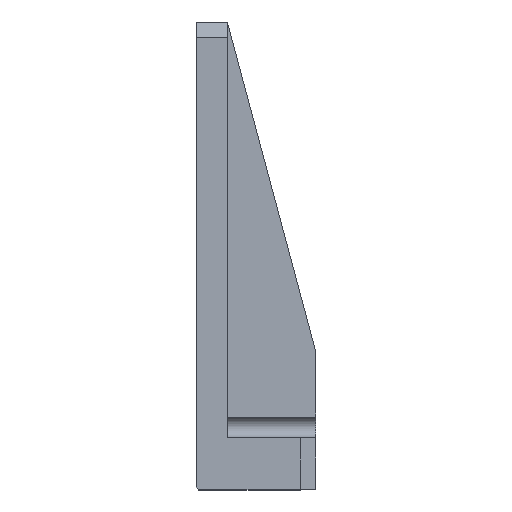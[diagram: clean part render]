
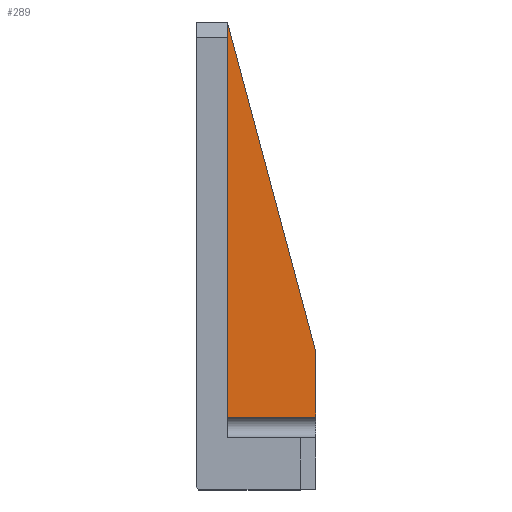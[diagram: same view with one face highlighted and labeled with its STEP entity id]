
A CAD part, top view. The second image highlights one B-rep face of the part: STEP entity #289.
In plain terms, the highlighted planar face has unit normal (0, 0, 1).
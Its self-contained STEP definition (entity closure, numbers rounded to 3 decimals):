
#56 = DIRECTION ( 'NONE',  ( 0., 0., -1. ) ) ;
#233 = AXIS2_PLACEMENT_3D ( 'NONE', #348, #56, #2399 ) ;
#289 = ADVANCED_FACE ( 'NONE', ( #1947 ), #2136, .F. ) ;
#290 = CARTESIAN_POINT ( 'NONE',  ( 23., 90., 3.5 ) ) ;
#299 = CARTESIAN_POINT ( 'NONE',  ( 23., 26.555, 3.5 ) ) ;
#348 = CARTESIAN_POINT ( 'NONE',  ( 103.306, 90., 3.5 ) ) ;
#449 = EDGE_CURVE ( 'NONE', #3409, #3341, #2542, .T. ) ;
#581 = CARTESIAN_POINT ( 'NONE',  ( 12.518, 65.674, 3.5 ) ) ;
#604 = LINE ( 'NONE', #581, #2519 ) ;
#705 = ORIENTED_EDGE ( 'NONE', *, *, #2597, .T. ) ;
#1008 = VECTOR ( 'NONE', #2490, 1000. ) ;
#1183 = ORIENTED_EDGE ( 'NONE', *, *, #1719, .T. ) ;
#1359 = LINE ( 'NONE', #2110, #3075 ) ;
#1620 = CARTESIAN_POINT ( 'NONE',  ( 6., 90., 3.5 ) ) ;
#1667 = CARTESIAN_POINT ( 'NONE',  ( 6., 90., 3.5 ) ) ;
#1719 = EDGE_CURVE ( 'NONE', #2140, #2541, #1866, .T. ) ;
#1803 = DIRECTION ( 'NONE',  ( 0., 1., 0. ) ) ;
#1866 = LINE ( 'NONE', #290, #3770 ) ;
#1947 = FACE_OUTER_BOUND ( 'NONE', #2598, .T. ) ;
#2110 = CARTESIAN_POINT ( 'NONE',  ( 103.306, 14., 3.5 ) ) ;
#2136 = PLANE ( 'NONE',  #233 ) ;
#2140 = VERTEX_POINT ( 'NONE', #3096 ) ;
#2152 = CARTESIAN_POINT ( 'NONE',  ( 6., 14., 3.5 ) ) ;
#2399 = DIRECTION ( 'NONE',  ( 0., 1., 0. ) ) ;
#2490 = DIRECTION ( 'NONE',  ( 0., -1., 0. ) ) ;
#2519 = VECTOR ( 'NONE', #3606, 1000. ) ;
#2541 = VERTEX_POINT ( 'NONE', #299 ) ;
#2542 = LINE ( 'NONE', #1620, #1008 ) ;
#2552 = ORIENTED_EDGE ( 'NONE', *, *, #3714, .F. ) ;
#2597 = EDGE_CURVE ( 'NONE', #2541, #3409, #604, .T. ) ;
#2598 = EDGE_LOOP ( 'NONE', ( #1183, #705, #2772, #2552 ) ) ;
#2772 = ORIENTED_EDGE ( 'NONE', *, *, #449, .T. ) ;
#3075 = VECTOR ( 'NONE', #3245, 1000. ) ;
#3096 = CARTESIAN_POINT ( 'NONE',  ( 23., 14., 3.5 ) ) ;
#3245 = DIRECTION ( 'NONE',  ( -1., 0., 0. ) ) ;
#3341 = VERTEX_POINT ( 'NONE', #2152 ) ;
#3409 = VERTEX_POINT ( 'NONE', #1667 ) ;
#3606 = DIRECTION ( 'NONE',  ( -0.259, 0.966, 0. ) ) ;
#3714 = EDGE_CURVE ( 'NONE', #2140, #3341, #1359, .T. ) ;
#3770 = VECTOR ( 'NONE', #1803, 1000. ) ;
